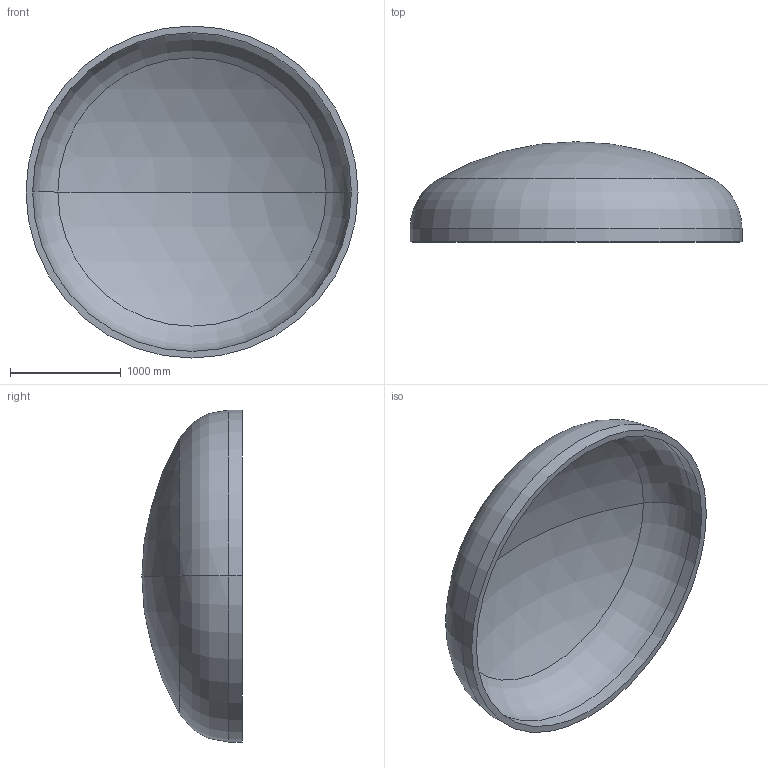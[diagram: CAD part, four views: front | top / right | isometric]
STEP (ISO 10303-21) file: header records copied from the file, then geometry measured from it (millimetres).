
FILE_DESCRIPTION (( 'STEP AP203' ), '1' );
FILE_NAME ('DIN 28013 Korbbogenform_-_Boden DIN 28013 - 3000 x 120 - I - s=60.step', '2016-07-01T17:54:55', ( '' ), ( '' ), 'SwSTEP 2.0', 'SolidWorks 2013', '' );
FILE_SCHEMA (( 'CONFIG_CONTROL_DESIGN' ));
Length unit declared in the file: millimetre
Products named in the file (1): DIN 28013 Korbbogenform_-_Boden DIN 28013 - 3000 x 120 - I - s=60
Bounding box: 3000 x 905.72 x 3000 mm (x, y, z)
Volume: 638138366.4 mm3; surface area: 21832988.4 mm2
Topology: 1 solids, 1 shells, 13 faces, 24 edges, 14 vertices
Faces by surface type: torus 4, cylinder 4, sphere 4, plane 1
Entity records: 407 total; most frequent: DIRECTION 72, CARTESIAN_POINT 52, ORIENTED_EDGE 48, AXIS2_PLACEMENT_3D 34, EDGE_CURVE 24, CIRCLE 20, EDGE_LOOP 14, VERTEX_POINT 14
